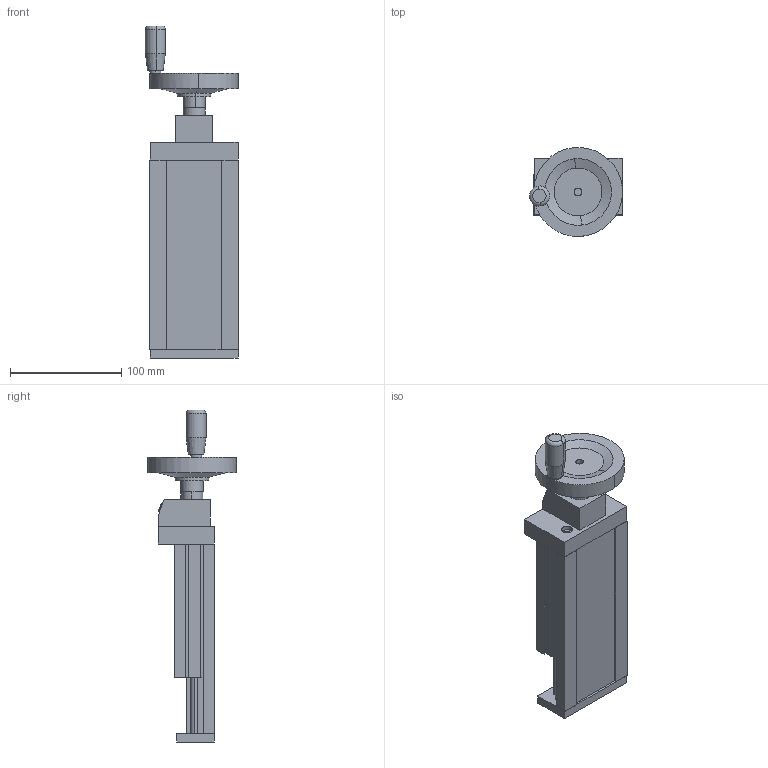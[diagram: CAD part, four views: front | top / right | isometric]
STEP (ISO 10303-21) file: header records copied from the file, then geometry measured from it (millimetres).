
FILE_DESCRIPTION (( 'STEP AP203' ), '1' );
FILE_NAME ('dL 80 digital Handrad.STEP', '2002-07-08T12:52:55', ( '' ), ( '' ), 'SwSTEP 2.0', 'SolidWorks 2002127', '' );
FILE_SCHEMA (( 'CONFIG_CONTROL_DESIGN' ));
Length unit declared in the file: millimetre
Products named in the file (5): dL 80 digital Handrad; Aussen neu light 80-+-D003976_ _Standard; dL80 neu light-+-D003977_ _DA04 Handrad; Handkurbel d80 dL80-+-D004769_ _Standard; Zähler DA04-+-D004962_ _Standard
Assembly tree (4 placements, depth 2):
  dL 80 digital Handrad
    Handkurbel d80 dL80-+-D004769_ _Standard
    Aussen neu light 80-+-D003976_ _Standard
    dL80 neu light-+-D003977_ _DA04 Handrad
    Zähler DA04-+-D004962_ _Standard
Bounding box: 83.78 x 79.9 x 298.5 mm (x, y, z)
Volume: 548970 mm3; surface area: 139278.2 mm2
Topology: 4 solids, 5 shells, 255 faces, 643 edges, 420 vertices
Faces by surface type: plane 155, cylinder 66, bspline 20, cone 8, torus 6
Entity records: 9830 total; most frequent: CARTESIAN_POINT 3137, ORIENTED_EDGE 1286, DIRECTION 1247, EDGE_CURVE 643, LINE 443, VECTOR 443, VERTEX_POINT 420, AXIS2_PLACEMENT_3D 402
